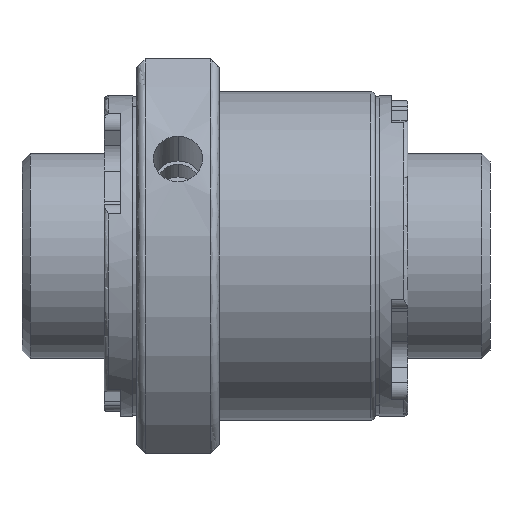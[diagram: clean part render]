
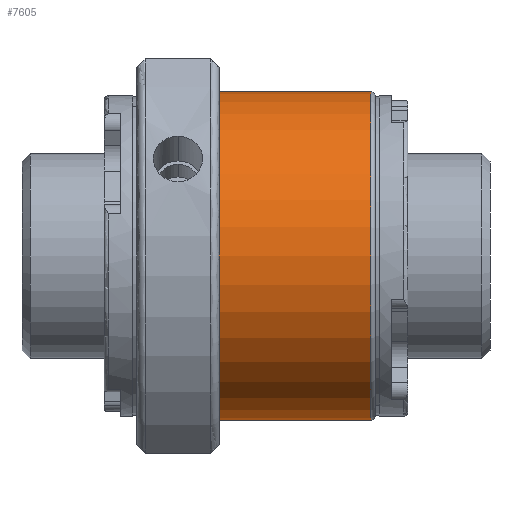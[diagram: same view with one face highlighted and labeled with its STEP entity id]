
A CAD part, front view. The second image highlights one B-rep face of the part: STEP entity #7605.
In plain terms, the highlighted cylindrical face has radius 20 mm (diameter 40 mm), a partial arc.
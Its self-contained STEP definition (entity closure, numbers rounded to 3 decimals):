
#15 = CYLINDRICAL_SURFACE ( 'NONE', #3249, 20. ) ;
#95 = CARTESIAN_POINT ( 'NONE',  ( 0., 0., 20. ) ) ;
#569 = EDGE_LOOP ( 'NONE', ( #7264, #3070, #2282, #5987 ) ) ;
#656 = CIRCLE ( 'NONE', #2576, 20. ) ;
#685 = VERTEX_POINT ( 'NONE', #6692 ) ;
#750 = DIRECTION ( 'NONE',  ( -1., 0., 0. ) ) ;
#829 = EDGE_CURVE ( 'NONE', #685, #4693, #656, .T. ) ;
#1107 = VERTEX_POINT ( 'NONE', #2174 ) ;
#1161 = EDGE_CURVE ( 'NONE', #2852, #1107, #2240, .T. ) ;
#1267 = VECTOR ( 'NONE', #4224, 1000. ) ;
#1405 = EDGE_CURVE ( 'NONE', #4693, #1107, #7687, .T. ) ;
#1614 = DIRECTION ( 'NONE',  ( 0., 0., 1. ) ) ;
#2103 = DIRECTION ( 'NONE',  ( 0., 0., 1. ) ) ;
#2129 = CARTESIAN_POINT ( 'NONE',  ( 32.5, 0., 0. ) ) ;
#2174 = CARTESIAN_POINT ( 'NONE',  ( 14., 0., 20. ) ) ;
#2240 = CIRCLE ( 'NONE', #4059, 20. ) ;
#2282 = ORIENTED_EDGE ( 'NONE', *, *, #1405, .T. ) ;
#2576 = AXIS2_PLACEMENT_3D ( 'NONE', #2129, #2706, #2103 ) ;
#2657 = CARTESIAN_POINT ( 'NONE',  ( 0., 0., -20. ) ) ;
#2706 = DIRECTION ( 'NONE',  ( -1., 0., 0. ) ) ;
#2852 = VERTEX_POINT ( 'NONE', #6919 ) ;
#3070 = ORIENTED_EDGE ( 'NONE', *, *, #829, .T. ) ;
#3249 = AXIS2_PLACEMENT_3D ( 'NONE', #6689, #3704, #4924 ) ;
#3704 = DIRECTION ( 'NONE',  ( -1., 0., 0. ) ) ;
#4059 = AXIS2_PLACEMENT_3D ( 'NONE', #5164, #7548, #1614 ) ;
#4167 = CARTESIAN_POINT ( 'NONE',  ( 32.5, 0., 20. ) ) ;
#4224 = DIRECTION ( 'NONE',  ( -1., 0., 0. ) ) ;
#4457 = VECTOR ( 'NONE', #750, 1000. ) ;
#4693 = VERTEX_POINT ( 'NONE', #4167 ) ;
#4924 = DIRECTION ( 'NONE',  ( 0., 0., 1. ) ) ;
#5164 = CARTESIAN_POINT ( 'NONE',  ( 14., 0., 0. ) ) ;
#5987 = ORIENTED_EDGE ( 'NONE', *, *, #1161, .F. ) ;
#6689 = CARTESIAN_POINT ( 'NONE',  ( 0., 0., 0. ) ) ;
#6690 = FACE_OUTER_BOUND ( 'NONE', #569, .T. ) ;
#6692 = CARTESIAN_POINT ( 'NONE',  ( 32.5, 0., -20. ) ) ;
#6919 = CARTESIAN_POINT ( 'NONE',  ( 14., 0., -20. ) ) ;
#7252 = LINE ( 'NONE', #2657, #4457 ) ;
#7264 = ORIENTED_EDGE ( 'NONE', *, *, #7495, .F. ) ;
#7495 = EDGE_CURVE ( 'NONE', #685, #2852, #7252, .T. ) ;
#7548 = DIRECTION ( 'NONE',  ( -1., 0., 0. ) ) ;
#7605 = ADVANCED_FACE ( 'NONE', ( #6690 ), #15, .T. ) ;
#7687 = LINE ( 'NONE', #95, #1267 ) ;
